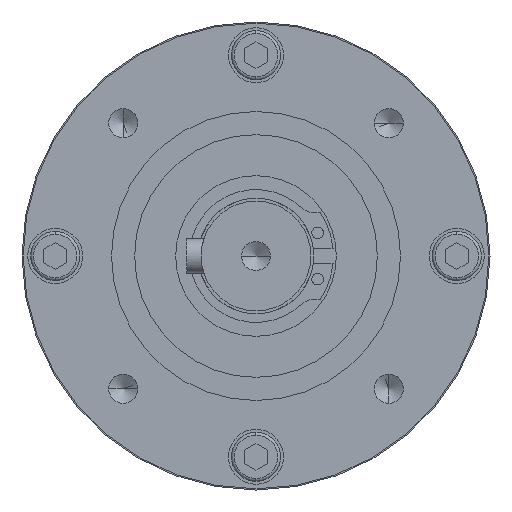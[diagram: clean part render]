
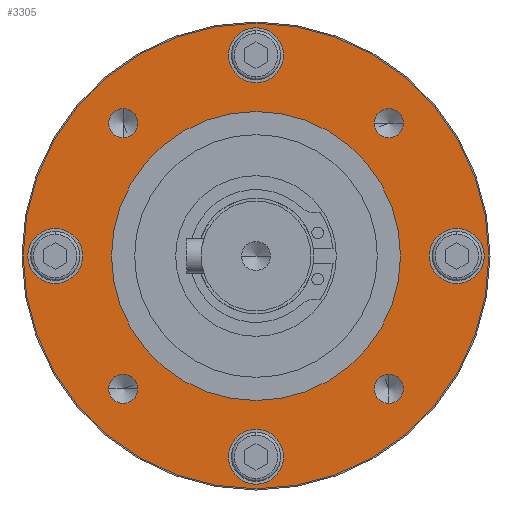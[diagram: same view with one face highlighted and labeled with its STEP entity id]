
A CAD part, left-side view. The second image highlights one B-rep face of the part: STEP entity #3305.
In plain terms, the highlighted planar face has unit normal (-1, 0, 0).
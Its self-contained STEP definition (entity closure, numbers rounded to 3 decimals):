
#68=CARTESIAN_POINT('',(-105.7,0.,0.));
#69=DIRECTION('',(1.,0.,0.));
#70=DIRECTION('',(0.,1.,0.));
#71=AXIS2_PLACEMENT_3D('',#68,#69,#70);
#91=CARTESIAN_POINT('',(-105.7,0.,0.));
#92=DIRECTION('',(-1.,0.,0.));
#93=DIRECTION('',(0.,1.,0.));
#94=AXIS2_PLACEMENT_3D('',#91,#92,#93);
#804=CARTESIAN_POINT('',(-105.7,0.,0.));
#805=DIRECTION('',(1.,0.,0.));
#806=DIRECTION('',(0.,1.,0.));
#807=AXIS2_PLACEMENT_3D('',#804,#805,#806);
#812=CARTESIAN_POINT('',(-105.7,0.,0.));
#813=DIRECTION('',(-1.,0.,0.));
#814=DIRECTION('',(0.,1.,0.));
#815=AXIS2_PLACEMENT_3D('',#812,#813,#814);
#820=CARTESIAN_POINT('',(-105.7,22.981,-22.981));
#821=DIRECTION('',(-1.,0.,0.));
#822=DIRECTION('',(0.,1.,0.));
#823=AXIS2_PLACEMENT_3D('',#820,#821,#822);
#828=CARTESIAN_POINT('',(-105.7,22.981,-22.981));
#829=DIRECTION('',(-1.,0.,0.));
#830=DIRECTION('',(0.,-1.,0.));
#831=AXIS2_PLACEMENT_3D('',#828,#829,#830);
#836=CARTESIAN_POINT('',(-105.7,22.981,22.981));
#837=DIRECTION('',(-1.,0.,0.));
#838=DIRECTION('',(0.,0.,1.));
#839=AXIS2_PLACEMENT_3D('',#836,#837,#838);
#844=CARTESIAN_POINT('',(-105.7,22.981,22.981));
#845=DIRECTION('',(-1.,0.,0.));
#846=DIRECTION('',(0.,0.,-1.));
#847=AXIS2_PLACEMENT_3D('',#844,#845,#846);
#852=CARTESIAN_POINT('',(-105.7,-22.981,22.981));
#853=DIRECTION('',(-1.,0.,0.));
#854=DIRECTION('',(0.,-1.,0.));
#855=AXIS2_PLACEMENT_3D('',#852,#853,#854);
#860=CARTESIAN_POINT('',(-105.7,-22.981,22.981));
#861=DIRECTION('',(-1.,0.,0.));
#862=DIRECTION('',(0.,1.,0.));
#863=AXIS2_PLACEMENT_3D('',#860,#861,#862);
#868=CARTESIAN_POINT('',(-105.7,-22.981,-22.981));
#869=DIRECTION('',(-1.,0.,0.));
#870=DIRECTION('',(0.,0.,-1.));
#871=AXIS2_PLACEMENT_3D('',#868,#869,#870);
#876=CARTESIAN_POINT('',(-105.7,-22.981,-22.981));
#877=DIRECTION('',(-1.,0.,0.));
#878=DIRECTION('',(0.,0.,1.));
#879=AXIS2_PLACEMENT_3D('',#876,#877,#878);
#884=CARTESIAN_POINT('',(-105.7,34.75,0.));
#885=DIRECTION('',(-1.,0.,0.));
#886=DIRECTION('',(0.,1.,0.));
#887=AXIS2_PLACEMENT_3D('',#884,#885,#886);
#892=CARTESIAN_POINT('',(-105.7,34.75,0.));
#893=DIRECTION('',(-1.,0.,0.));
#894=DIRECTION('',(0.,-1.,0.));
#895=AXIS2_PLACEMENT_3D('',#892,#893,#894);
#900=CARTESIAN_POINT('',(-105.7,0.,34.75));
#901=DIRECTION('',(-1.,0.,0.));
#902=DIRECTION('',(0.,0.,1.));
#903=AXIS2_PLACEMENT_3D('',#900,#901,#902);
#908=CARTESIAN_POINT('',(-105.7,0.,34.75));
#909=DIRECTION('',(-1.,0.,0.));
#910=DIRECTION('',(0.,0.,-1.));
#911=AXIS2_PLACEMENT_3D('',#908,#909,#910);
#916=CARTESIAN_POINT('',(-105.7,-34.75,0.));
#917=DIRECTION('',(-1.,0.,0.));
#918=DIRECTION('',(0.,-1.,0.));
#919=AXIS2_PLACEMENT_3D('',#916,#917,#918);
#924=CARTESIAN_POINT('',(-105.7,-34.75,0.));
#925=DIRECTION('',(-1.,0.,0.));
#926=DIRECTION('',(0.,1.,0.));
#927=AXIS2_PLACEMENT_3D('',#924,#925,#926);
#932=CARTESIAN_POINT('',(-105.7,0.,-34.75));
#933=DIRECTION('',(-1.,0.,0.));
#934=DIRECTION('',(0.,0.,-1.));
#935=AXIS2_PLACEMENT_3D('',#932,#933,#934);
#940=CARTESIAN_POINT('',(-105.7,0.,-34.75));
#941=DIRECTION('',(-1.,0.,0.));
#942=DIRECTION('',(0.,0.,1.));
#943=AXIS2_PLACEMENT_3D('',#940,#941,#942);
#2264=CARTESIAN_POINT('',(-105.7,25.,0.));
#2265=CARTESIAN_POINT('',(-105.7,-25.,0.));
#2266=VERTEX_POINT('',#2264);
#2267=VERTEX_POINT('',#2265);
#2278=CARTESIAN_POINT('',(-105.7,25.481,-22.981));
#2279=VERTEX_POINT('',#2278);
#2280=CARTESIAN_POINT('',(-105.7,20.481,-22.981));
#2281=VERTEX_POINT('',#2280);
#2288=CARTESIAN_POINT('',(-105.7,22.981,25.481));
#2289=CARTESIAN_POINT('',(-105.7,22.981,20.481));
#2290=VERTEX_POINT('',#2288);
#2291=VERTEX_POINT('',#2289);
#2298=CARTESIAN_POINT('',(-105.7,-25.481,22.981));
#2299=CARTESIAN_POINT('',(-105.7,-20.481,22.981));
#2300=VERTEX_POINT('',#2298);
#2301=VERTEX_POINT('',#2299);
#2308=CARTESIAN_POINT('',(-105.7,-22.981,-25.481));
#2309=CARTESIAN_POINT('',(-105.7,-22.981,-20.481));
#2310=VERTEX_POINT('',#2308);
#2311=VERTEX_POINT('',#2309);
#2316=CARTESIAN_POINT('',(-105.7,39.5,0.));
#2317=CARTESIAN_POINT('',(-105.7,30.,0.));
#2318=VERTEX_POINT('',#2316);
#2319=VERTEX_POINT('',#2317);
#2324=CARTESIAN_POINT('',(-105.7,0.,39.5));
#2325=CARTESIAN_POINT('',(-105.7,0.,30.));
#2326=VERTEX_POINT('',#2324);
#2327=VERTEX_POINT('',#2325);
#2332=CARTESIAN_POINT('',(-105.7,-39.5,0.));
#2333=CARTESIAN_POINT('',(-105.7,-30.,0.));
#2334=VERTEX_POINT('',#2332);
#2335=VERTEX_POINT('',#2333);
#2340=CARTESIAN_POINT('',(-105.7,0.,-39.5));
#2341=CARTESIAN_POINT('',(-105.7,0.,-30.));
#2342=VERTEX_POINT('',#2340);
#2343=VERTEX_POINT('',#2341);
#2344=CARTESIAN_POINT('',(-105.7,40.3,0.));
#2345=CARTESIAN_POINT('',(-105.7,-40.3,0.));
#2346=VERTEX_POINT('',#2344);
#2347=VERTEX_POINT('',#2345);
#3242=CARTESIAN_POINT('',(-105.7,0.,0.));
#3243=DIRECTION('',(1.,0.,0.));
#3244=DIRECTION('',(0.,-1.,0.));
#3245=AXIS2_PLACEMENT_3D('',#3242,#3243,#3244);
#3246=PLANE('',#3245);
#3248=ORIENTED_EDGE('',*,*,#3247,.T.);
#3250=ORIENTED_EDGE('',*,*,#3249,.F.);
#3251=EDGE_LOOP('',(#3248,#3250));
#3252=FACE_OUTER_BOUND('',#3251,.F.);
#3253=ORIENTED_EDGE('',*,*,#2650,.T.);
#3254=ORIENTED_EDGE('',*,*,#2632,.F.);
#3255=EDGE_LOOP('',(#3253,#3254));
#3256=FACE_BOUND('',#3255,.F.);
#3258=ORIENTED_EDGE('',*,*,#3257,.T.);
#3260=ORIENTED_EDGE('',*,*,#3259,.T.);
#3261=EDGE_LOOP('',(#3258,#3260));
#3262=FACE_BOUND('',#3261,.F.);
#3264=ORIENTED_EDGE('',*,*,#3263,.T.);
#3266=ORIENTED_EDGE('',*,*,#3265,.T.);
#3267=EDGE_LOOP('',(#3264,#3266));
#3268=FACE_BOUND('',#3267,.F.);
#3270=ORIENTED_EDGE('',*,*,#3269,.T.);
#3272=ORIENTED_EDGE('',*,*,#3271,.T.);
#3273=EDGE_LOOP('',(#3270,#3272));
#3274=FACE_BOUND('',#3273,.F.);
#3276=ORIENTED_EDGE('',*,*,#3275,.T.);
#3278=ORIENTED_EDGE('',*,*,#3277,.T.);
#3279=EDGE_LOOP('',(#3276,#3278));
#3280=FACE_BOUND('',#3279,.F.);
#3282=ORIENTED_EDGE('',*,*,#3281,.T.);
#3284=ORIENTED_EDGE('',*,*,#3283,.T.);
#3285=EDGE_LOOP('',(#3282,#3284));
#3286=FACE_BOUND('',#3285,.F.);
#3288=ORIENTED_EDGE('',*,*,#3287,.T.);
#3290=ORIENTED_EDGE('',*,*,#3289,.T.);
#3291=EDGE_LOOP('',(#3288,#3290));
#3292=FACE_BOUND('',#3291,.F.);
#3294=ORIENTED_EDGE('',*,*,#3293,.T.);
#3296=ORIENTED_EDGE('',*,*,#3295,.T.);
#3297=EDGE_LOOP('',(#3294,#3296));
#3298=FACE_BOUND('',#3297,.F.);
#3300=ORIENTED_EDGE('',*,*,#3299,.T.);
#3302=ORIENTED_EDGE('',*,*,#3301,.T.);
#3303=EDGE_LOOP('',(#3300,#3302));
#3304=FACE_BOUND('',#3303,.F.);
#3305=ADVANCED_FACE('',(#3252,#3256,#3262,#3268,#3274,#3280,#3286,#3292,#3298,
#3304),#3246,.F.);
#72=CIRCLE('',#71,25.);
#95=CIRCLE('',#94,25.);
#808=CIRCLE('',#807,40.3);
#816=CIRCLE('',#815,40.3);
#824=CIRCLE('',#823,2.5);
#832=CIRCLE('',#831,2.5);
#840=CIRCLE('',#839,2.5);
#848=CIRCLE('',#847,2.5);
#856=CIRCLE('',#855,2.5);
#864=CIRCLE('',#863,2.5);
#872=CIRCLE('',#871,2.5);
#880=CIRCLE('',#879,2.5);
#888=CIRCLE('',#887,4.75);
#896=CIRCLE('',#895,4.75);
#904=CIRCLE('',#903,4.75);
#912=CIRCLE('',#911,4.75);
#920=CIRCLE('',#919,4.75);
#928=CIRCLE('',#927,4.75);
#936=CIRCLE('',#935,4.75);
#944=CIRCLE('',#943,4.75);
#2632=EDGE_CURVE('',#2266,#2267,#72,.T.);
#2650=EDGE_CURVE('',#2266,#2267,#95,.T.);
#3247=EDGE_CURVE('',#2346,#2347,#808,.T.);
#3249=EDGE_CURVE('',#2346,#2347,#816,.T.);
#3257=EDGE_CURVE('',#2279,#2281,#824,.T.);
#3259=EDGE_CURVE('',#2281,#2279,#832,.T.);
#3263=EDGE_CURVE('',#2290,#2291,#840,.T.);
#3265=EDGE_CURVE('',#2291,#2290,#848,.T.);
#3269=EDGE_CURVE('',#2300,#2301,#856,.T.);
#3271=EDGE_CURVE('',#2301,#2300,#864,.T.);
#3275=EDGE_CURVE('',#2310,#2311,#872,.T.);
#3277=EDGE_CURVE('',#2311,#2310,#880,.T.);
#3281=EDGE_CURVE('',#2318,#2319,#888,.T.);
#3283=EDGE_CURVE('',#2319,#2318,#896,.T.);
#3287=EDGE_CURVE('',#2326,#2327,#904,.T.);
#3289=EDGE_CURVE('',#2327,#2326,#912,.T.);
#3293=EDGE_CURVE('',#2334,#2335,#920,.T.);
#3295=EDGE_CURVE('',#2335,#2334,#928,.T.);
#3299=EDGE_CURVE('',#2342,#2343,#936,.T.);
#3301=EDGE_CURVE('',#2343,#2342,#944,.T.);
